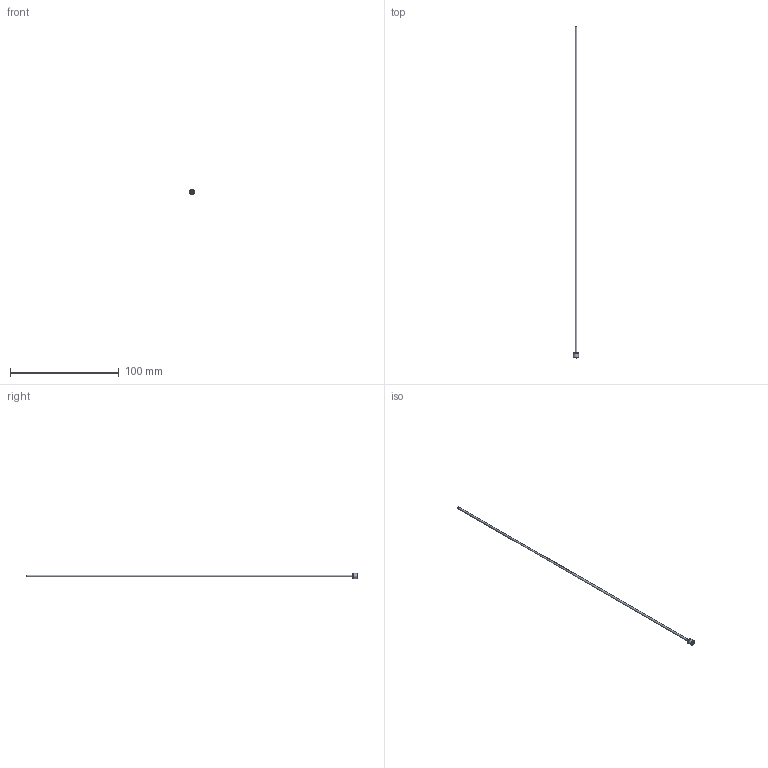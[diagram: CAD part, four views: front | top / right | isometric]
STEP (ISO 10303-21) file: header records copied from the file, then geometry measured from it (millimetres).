
FILE_DESCRIPTION(/* description */ (''),/* implementation_level */ '2;1');
FILE_NAME(/* name */ 'C:/Users/drich/Desktop/JHF072T-12 v1.step',/* time_stamp */ '2020-01-02T19:58:36-06:00',/* author */ (''),/* organization */ (''),/* preprocessor_version */ 'ST-DEVELOPER v18',/* originating_system */ 'Autodesk Translation Framework v8.12.0.6',/* authorisation */ '');
FILE_SCHEMA (('AUTOMOTIVE_DESIGN { 1 0 10303 214 3 1 1 }'));
Length unit declared in the file: inch
Products named in the file (1): JHF072T-12
Bounding box: 4.8 x 304.8 x 4.8 mm (x, y, z)
Volume: 320.9 mm3; surface area: 3284.1 mm2
Topology: 1 solids, 1 shells, 10 faces, 25 edges, 19 vertices
Faces by surface type: cylinder 4, plane 4, cone 1, torus 1
Full cylindrical faces by diameter (mm): 1.524 x1, 1.829 x1, 4.75 x1, 4.801 x1
Entity records: 364 total; most frequent: DIRECTION 67, CARTESIAN_POINT 55, ORIENTED_EDGE 50, AXIS2_PLACEMENT_3D 31, EDGE_CURVE 25, CIRCLE 20, VERTEX_POINT 19, EDGE_LOOP 14
